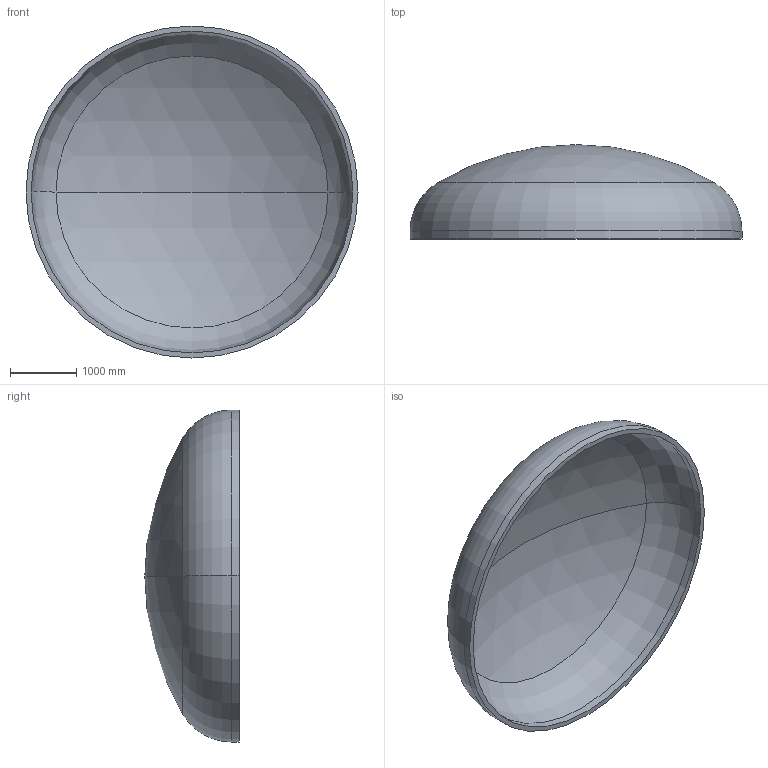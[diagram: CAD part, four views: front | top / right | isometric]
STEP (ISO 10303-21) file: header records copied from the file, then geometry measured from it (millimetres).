
FILE_DESCRIPTION (( 'STEP AP203' ), '1' );
FILE_NAME ('DIN 28013 Korbbogenform_-_Boden DIN 28013 - 5000 x 120 - I - s=76.step', '2016-07-02T00:45:57', ( '' ), ( '' ), 'SwSTEP 2.0', 'SolidWorks 2013', '' );
FILE_SCHEMA (( 'CONFIG_CONTROL_DESIGN' ));
Length unit declared in the file: millimetre
Products named in the file (1): DIN 28013 Korbbogenform_-_Boden DIN 28013 - 5000 x 120 - I - s=76
Bounding box: 5000 x 1421.62 x 5000 mm (x, y, z)
Volume: 2166764740 mm3; surface area: 58207860.5 mm2
Topology: 1 solids, 1 shells, 13 faces, 24 edges, 14 vertices
Faces by surface type: torus 4, cylinder 4, sphere 4, plane 1
Entity records: 407 total; most frequent: DIRECTION 72, CARTESIAN_POINT 52, ORIENTED_EDGE 48, AXIS2_PLACEMENT_3D 34, EDGE_CURVE 24, CIRCLE 20, EDGE_LOOP 14, VERTEX_POINT 14
